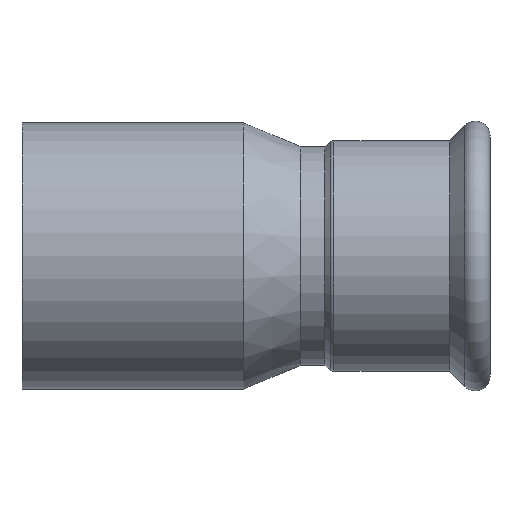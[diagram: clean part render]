
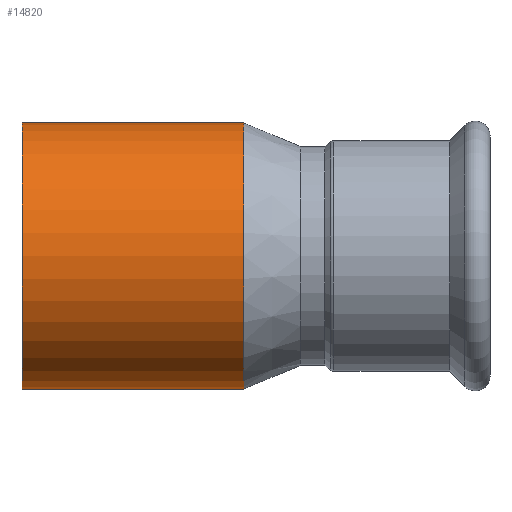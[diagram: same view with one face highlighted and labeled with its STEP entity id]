
A CAD part, top view. The second image highlights one B-rep face of the part: STEP entity #14820.
In plain terms, the highlighted cylindrical face has radius 54 mm (diameter 108 mm), a partial arc.
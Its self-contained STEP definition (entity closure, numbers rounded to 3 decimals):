
#13950=CARTESIAN_POINT('',(-29.,54.,0.));
#13960=VERTEX_POINT('',#13950);
#14050=CARTESIAN_POINT('',(-29.,-54.,0.));
#14060=VERTEX_POINT('',#14050);
#14090=CARTESIAN_POINT('',(-29.,0.,0.));
#14100=DIRECTION('',(-1.,0.,0.));
#14110=DIRECTION('',(0.,1.,0.));
#14120=AXIS2_PLACEMENT_3D('',#14090,#14100,#14110);
#14130=CIRCLE('',#14120,54.);
#14140=EDGE_CURVE('',#14060,#13960,#14130,.T.);
#14510=CARTESIAN_POINT('',(-119.,0.,0.));
#14520=DIRECTION('',(-1.,0.,0.));
#14530=DIRECTION('',(0.,-1.,0.));
#14540=AXIS2_PLACEMENT_3D('',#14510,#14520,#14530);
#14550=CYLINDRICAL_SURFACE('',#14540,54.);
#14560=CARTESIAN_POINT('',(-119.,-54.,0.));
#14570=DIRECTION('',(-1.,0.,0.));
#14580=VECTOR('',#14570,1.);
#14590=LINE('',#14560,#14580);
#14600=CARTESIAN_POINT('',(-119.,-54.,0.));
#14610=VERTEX_POINT('',#14600);
#14620=EDGE_CURVE('',#14060,#14610,#14590,.T.);
#14630=ORIENTED_EDGE('',*,*,#14620,.F.);
#14640=CARTESIAN_POINT('',(-119.,0.,0.));
#14650=DIRECTION('',(-1.,0.,0.));
#14660=DIRECTION('',(0.,-1.,0.));
#14670=AXIS2_PLACEMENT_3D('',#14640,#14650,#14660);
#14680=CIRCLE('',#14670,54.);
#14690=CARTESIAN_POINT('',(-119.,54.,0.));
#14700=VERTEX_POINT('',#14690);
#14710=EDGE_CURVE('',#14610,#14700,#14680,.T.);
#14720=ORIENTED_EDGE('',*,*,#14710,.F.);
#14730=CARTESIAN_POINT('',(-119.,54.,0.));
#14740=DIRECTION('',(-1.,0.,0.));
#14750=VECTOR('',#14740,1.);
#14760=LINE('',#14730,#14750);
#14770=EDGE_CURVE('',#13960,#14700,#14760,.T.);
#14780=ORIENTED_EDGE('',*,*,#14770,.T.);
#14790=ORIENTED_EDGE('',*,*,#14140,.T.);
#14800=EDGE_LOOP('',(#14790,#14780,#14720,#14630));
#14810=FACE_OUTER_BOUND('',#14800,.T.);
#14820=ADVANCED_FACE('',(#14810),#14550,.T.);
